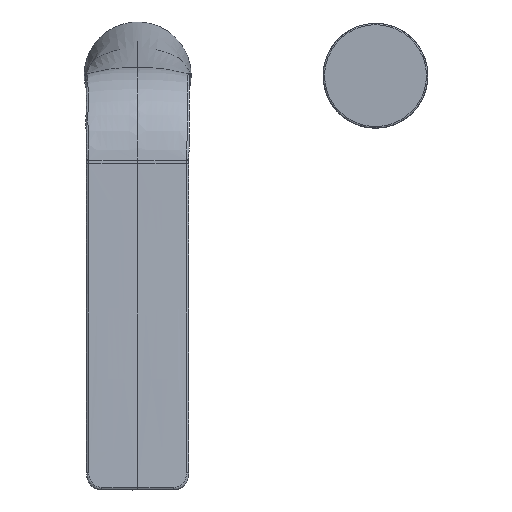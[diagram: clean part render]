
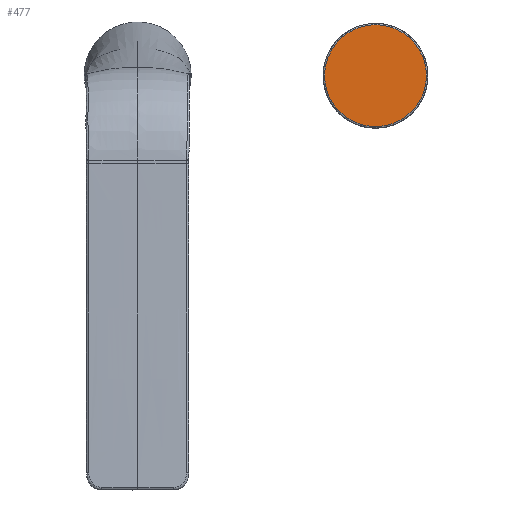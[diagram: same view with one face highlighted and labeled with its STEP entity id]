
A CAD part, top view. The second image highlights one B-rep face of the part: STEP entity #477.
In plain terms, the highlighted planar face has unit normal (0, 0, 1).
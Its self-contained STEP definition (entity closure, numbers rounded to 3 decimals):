
#477=ADVANCED_FACE('',(#918),#6018,.T.);
#918=FACE_OUTER_BOUND('',#1375,.T.);
#1375=EDGE_LOOP('',(#3347,#3348));
#3347=ORIENTED_EDGE('',*,*,#4376,.T.);
#3348=ORIENTED_EDGE('',*,*,#4374,.F.);
#4374=EDGE_CURVE('',#5983,#5984,#5119,.T.);
#4376=EDGE_CURVE('',#5983,#5984,#5121,.T.);
#5119=(
BOUNDED_CURVE()
B_SPLINE_CURVE(2,(#33749,#33750,#33751,#33752,#33753),.UNSPECIFIED.,.F.,
 .F.)
B_SPLINE_CURVE_WITH_KNOTS((3,2,3),(-67.23,-33.615,
0.),.UNSPECIFIED.)
CURVE()
GEOMETRIC_REPRESENTATION_ITEM()
RATIONAL_B_SPLINE_CURVE((1.,0.707,1.,0.707,1.))
REPRESENTATION_ITEM('')
);
#5121=(
BOUNDED_CURVE()
B_SPLINE_CURVE(2,(#33757,#33758,#33759,#33760,#33761),.UNSPECIFIED.,.F.,
 .F.)
B_SPLINE_CURVE_WITH_KNOTS((3,2,3),(0.,33.615,67.23),
 .UNSPECIFIED.)
CURVE()
GEOMETRIC_REPRESENTATION_ITEM()
RATIONAL_B_SPLINE_CURVE((1.,0.707,1.,0.707,1.))
REPRESENTATION_ITEM('')
);
#5983=VERTEX_POINT('',#33505);
#5984=VERTEX_POINT('',#33506);
#6018=PLANE('',#6479);
#6479=AXIS2_PLACEMENT_3D('',#33467,#6505,$);
#6505=DIRECTION('',(0.,0.,1.));
#33467=CARTESIAN_POINT('',(75.941,49.899,-41.323));
#33505=CARTESIAN_POINT('',(50.201,54.239,-41.323));
#33506=CARTESIAN_POINT('',(50.201,97.039,-41.323));
#33749=CARTESIAN_POINT('',(50.201,54.239,-41.323));
#33750=CARTESIAN_POINT('',(28.801,54.239,-41.323));
#33751=CARTESIAN_POINT('',(28.801,75.639,-41.323));
#33752=CARTESIAN_POINT('',(28.801,97.039,-41.323));
#33753=CARTESIAN_POINT('',(50.201,97.039,-41.323));
#33757=CARTESIAN_POINT('',(50.201,54.239,-41.323));
#33758=CARTESIAN_POINT('',(71.601,54.239,-41.323));
#33759=CARTESIAN_POINT('',(71.601,75.639,-41.323));
#33760=CARTESIAN_POINT('',(71.601,97.039,-41.323));
#33761=CARTESIAN_POINT('',(50.201,97.039,-41.323));
